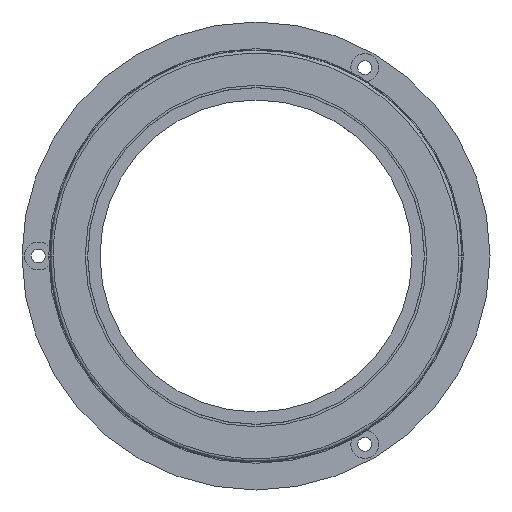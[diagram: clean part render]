
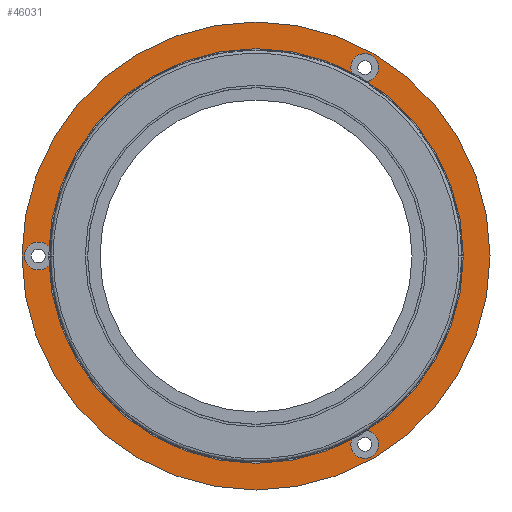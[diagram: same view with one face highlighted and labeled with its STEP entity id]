
A CAD part, left-side view. The second image highlights one B-rep face of the part: STEP entity #46031.
In plain terms, the highlighted planar face has unit normal (-1, 0, 0).
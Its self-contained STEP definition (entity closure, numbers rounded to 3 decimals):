
#431 = CIRCLE ( 'NONE', #58623, 1.7 ) ;
#2417 = AXIS2_PLACEMENT_3D ( 'NONE', #67471, #54601, #73497 ) ;
#2480 = EDGE_CURVE ( 'NONE', #52815, #35967, #431, .T. ) ;
#4588 = ORIENTED_EDGE ( 'NONE', *, *, #53626, .T. ) ;
#5087 = FACE_BOUND ( 'NONE', #35286, .T. ) ;
#5571 = AXIS2_PLACEMENT_3D ( 'NONE', #80541, #41333, #8731 ) ;
#5620 = CIRCLE ( 'NONE', #7821, 1.7 ) ;
#6883 = AXIS2_PLACEMENT_3D ( 'NONE', #63832, #57284, #24639 ) ;
#6899 = VERTEX_POINT ( 'NONE', #12230 ) ;
#7378 = AXIS2_PLACEMENT_3D ( 'NONE', #31840, #77645, #57649 ) ;
#7821 = AXIS2_PLACEMENT_3D ( 'NONE', #35015, #62788, #49898 ) ;
#8153 = CARTESIAN_POINT ( 'NONE',  ( 2.8, 22.5, 0. ) ) ;
#8230 = CIRCLE ( 'NONE', #52435, 1.7 ) ;
#8731 = DIRECTION ( 'NONE',  ( 0., -1., 0. ) ) ;
#8841 = CARTESIAN_POINT ( 'NONE',  ( 2.8, 0., 0. ) ) ;
#11762 = EDGE_CURVE ( 'NONE', #67742, #54705, #57488, .T. ) ;
#12230 = CARTESIAN_POINT ( 'NONE',  ( 2.8, 28.2, 0. ) ) ;
#12377 = EDGE_LOOP ( 'NONE', ( #72987, #41542 ) ) ;
#13233 = DIRECTION ( 'NONE',  ( 0., -1., 0. ) ) ;
#14685 = DIRECTION ( 'NONE',  ( -1., 0., 0. ) ) ;
#17418 = ORIENTED_EDGE ( 'NONE', *, *, #17616, .T. ) ;
#17616 = EDGE_CURVE ( 'NONE', #6899, #28992, #68405, .T. ) ;
#17659 = CARTESIAN_POINT ( 'NONE',  ( 2.8, -14.95, 22.95 ) ) ;
#19212 = DIRECTION ( 'NONE',  ( 1., 0., 0. ) ) ;
#19283 = EDGE_LOOP ( 'NONE', ( #4588, #61142 ) ) ;
#22875 = DIRECTION ( 'NONE',  ( 0., -1., 0. ) ) ;
#24639 = DIRECTION ( 'NONE',  ( 0., 1., 0. ) ) ;
#25535 = AXIS2_PLACEMENT_3D ( 'NONE', #8841, #54613, #60089 ) ;
#26706 = CARTESIAN_POINT ( 'NONE',  ( 2.8, -11.55, 22.95 ) ) ;
#27042 = CARTESIAN_POINT ( 'NONE',  ( 2.8, -11.55, -22.95 ) ) ;
#27473 = VERTEX_POINT ( 'NONE', #81366 ) ;
#27524 = CARTESIAN_POINT ( 'NONE',  ( 2.8, -13.25, 22.95 ) ) ;
#28073 = DIRECTION ( 'NONE',  ( 1., 0., 0. ) ) ;
#28992 = VERTEX_POINT ( 'NONE', #62677 ) ;
#29642 = VERTEX_POINT ( 'NONE', #74345 ) ;
#29920 = DIRECTION ( 'NONE',  ( -1., 0., 0. ) ) ;
#31840 = CARTESIAN_POINT ( 'NONE',  ( 2.8, 0., 0. ) ) ;
#32654 = CARTESIAN_POINT ( 'NONE',  ( 2.8, -13.25, 22.95 ) ) ;
#33725 = DIRECTION ( 'NONE',  ( 1., 0., 0. ) ) ;
#33852 = DIRECTION ( 'NONE',  ( 0., 1., 0. ) ) ;
#34135 = CARTESIAN_POINT ( 'NONE',  ( 2.8, 0., 0. ) ) ;
#35015 = CARTESIAN_POINT ( 'NONE',  ( 2.8, -13.25, -22.95 ) ) ;
#35286 = EDGE_LOOP ( 'NONE', ( #69338, #58091 ) ) ;
#35967 = VERTEX_POINT ( 'NONE', #26706 ) ;
#37003 = CARTESIAN_POINT ( 'NONE',  ( 2.8, -22.5, 0. ) ) ;
#37815 = FACE_BOUND ( 'NONE', #59119, .T. ) ;
#38579 = VERTEX_POINT ( 'NONE', #27042 ) ;
#38972 = CIRCLE ( 'NONE', #77777, 28.5 ) ;
#40201 = EDGE_CURVE ( 'NONE', #28992, #6899, #8230, .T. ) ;
#41333 = DIRECTION ( 'NONE',  ( 1., 0., 0. ) ) ;
#41542 = ORIENTED_EDGE ( 'NONE', *, *, #68383, .T. ) ;
#43229 = EDGE_CURVE ( 'NONE', #27473, #38579, #5620, .T. ) ;
#43549 = ORIENTED_EDGE ( 'NONE', *, *, #2480, .T. ) ;
#43872 = VERTEX_POINT ( 'NONE', #64464 ) ;
#46031 = ADVANCED_FACE ( 'NONE', ( #75773, #5087, #37815, #77844, #72678 ), #83120, .T. ) ;
#46243 = EDGE_CURVE ( 'NONE', #35967, #52815, #71684, .T. ) ;
#49898 = DIRECTION ( 'NONE',  ( 0., -1., 0. ) ) ;
#50208 = ORIENTED_EDGE ( 'NONE', *, *, #40201, .T. ) ;
#52435 = AXIS2_PLACEMENT_3D ( 'NONE', #79807, #33725, #60356 ) ;
#52594 = CIRCLE ( 'NONE', #7378, 28.5 ) ;
#52815 = VERTEX_POINT ( 'NONE', #17659 ) ;
#53626 = EDGE_CURVE ( 'NONE', #43872, #29642, #52594, .T. ) ;
#54601 = DIRECTION ( 'NONE',  ( 1., 0., 0. ) ) ;
#54613 = DIRECTION ( 'NONE',  ( 1., 0., 0. ) ) ;
#54705 = VERTEX_POINT ( 'NONE', #37003 ) ;
#56972 = ORIENTED_EDGE ( 'NONE', *, *, #46243, .T. ) ;
#57284 = DIRECTION ( 'NONE',  ( 1., 0., 0. ) ) ;
#57488 = CIRCLE ( 'NONE', #25535, 22.5 ) ;
#57649 = DIRECTION ( 'NONE',  ( 0., 1., 0. ) ) ;
#58091 = ORIENTED_EDGE ( 'NONE', *, *, #73660, .T. ) ;
#58623 = AXIS2_PLACEMENT_3D ( 'NONE', #32654, #19212, #13233 ) ;
#59119 = EDGE_LOOP ( 'NONE', ( #43549, #56972 ) ) ;
#60089 = DIRECTION ( 'NONE',  ( 0., 1., 0. ) ) ;
#60356 = DIRECTION ( 'NONE',  ( 0., -1., 0. ) ) ;
#61142 = ORIENTED_EDGE ( 'NONE', *, *, #63730, .T. ) ;
#61523 = AXIS2_PLACEMENT_3D ( 'NONE', #27524, #28073, #22875 ) ;
#62587 = CARTESIAN_POINT ( 'NONE',  ( 2.8, 22.5, 0. ) ) ;
#62677 = CARTESIAN_POINT ( 'NONE',  ( 2.8, 24.8, 0. ) ) ;
#62788 = DIRECTION ( 'NONE',  ( 1., 0., 0. ) ) ;
#63149 = DIRECTION ( 'NONE',  ( 0., -1., 0. ) ) ;
#63730 = EDGE_CURVE ( 'NONE', #29642, #43872, #38972, .T. ) ;
#63832 = CARTESIAN_POINT ( 'NONE',  ( 2.8, 0., 0. ) ) ;
#64464 = CARTESIAN_POINT ( 'NONE',  ( 2.8, 28.5, 0. ) ) ;
#67471 = CARTESIAN_POINT ( 'NONE',  ( 2.8, 26.5, 0. ) ) ;
#67742 = VERTEX_POINT ( 'NONE', #8153 ) ;
#68383 = EDGE_CURVE ( 'NONE', #38579, #27473, #72376, .T. ) ;
#68405 = CIRCLE ( 'NONE', #2417, 1.7 ) ;
#69128 = AXIS2_PLACEMENT_3D ( 'NONE', #62587, #29920, #63149 ) ;
#69338 = ORIENTED_EDGE ( 'NONE', *, *, #11762, .T. ) ;
#71684 = CIRCLE ( 'NONE', #61523, 1.7 ) ;
#72376 = CIRCLE ( 'NONE', #5571, 1.7 ) ;
#72678 = FACE_BOUND ( 'NONE', #75478, .T. ) ;
#72987 = ORIENTED_EDGE ( 'NONE', *, *, #43229, .T. ) ;
#73497 = DIRECTION ( 'NONE',  ( 0., -1., 0. ) ) ;
#73660 = EDGE_CURVE ( 'NONE', #54705, #67742, #75834, .T. ) ;
#74345 = CARTESIAN_POINT ( 'NONE',  ( 2.8, -28.5, 0. ) ) ;
#75478 = EDGE_LOOP ( 'NONE', ( #50208, #17418 ) ) ;
#75773 = FACE_OUTER_BOUND ( 'NONE', #19283, .T. ) ;
#75834 = CIRCLE ( 'NONE', #6883, 22.5 ) ;
#77645 = DIRECTION ( 'NONE',  ( -1., 0., 0. ) ) ;
#77777 = AXIS2_PLACEMENT_3D ( 'NONE', #34135, #14685, #33852 ) ;
#77844 = FACE_BOUND ( 'NONE', #12377, .T. ) ;
#79807 = CARTESIAN_POINT ( 'NONE',  ( 2.8, 26.5, 0. ) ) ;
#80541 = CARTESIAN_POINT ( 'NONE',  ( 2.8, -13.25, -22.95 ) ) ;
#81366 = CARTESIAN_POINT ( 'NONE',  ( 2.8, -14.95, -22.95 ) ) ;
#83120 = PLANE ( 'NONE',  #69128 ) ;
